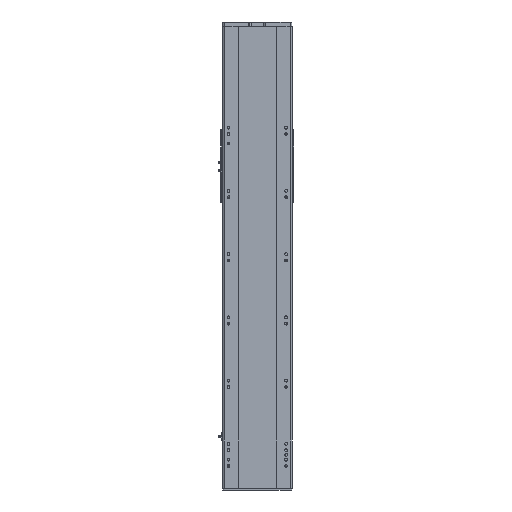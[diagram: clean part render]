
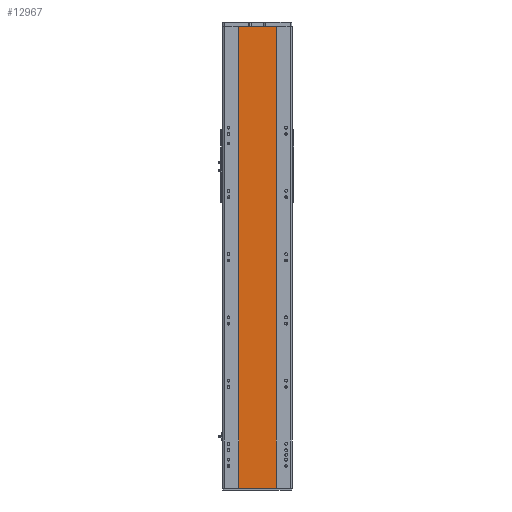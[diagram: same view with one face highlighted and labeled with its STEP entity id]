
A CAD part, front view. The second image highlights one B-rep face of the part: STEP entity #12967.
In plain terms, the highlighted planar face has unit normal (0, -1, 0).
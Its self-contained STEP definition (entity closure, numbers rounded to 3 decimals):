
#905 = VECTOR ( 'NONE', #15705, 1000. ) ;
#1436 = ORIENTED_EDGE ( 'NONE', *, *, #15707, .F. ) ;
#1807 = CARTESIAN_POINT ( 'NONE',  ( 59., 1., -730.5 ) ) ;
#1826 = CARTESIAN_POINT ( 'NONE',  ( -59., 1., 730.5 ) ) ;
#2507 = LINE ( 'NONE', #14375, #2958 ) ;
#2749 = PLANE ( 'NONE',  #26799 ) ;
#2958 = VECTOR ( 'NONE', #29137, 1000. ) ;
#3396 = VERTEX_POINT ( 'NONE', #35635 ) ;
#3615 = LINE ( 'NONE', #9654, #21268 ) ;
#4517 = VERTEX_POINT ( 'NONE', #30590 ) ;
#5737 = VERTEX_POINT ( 'NONE', #1826 ) ;
#8296 = EDGE_LOOP ( 'NONE', ( #11027, #1436, #26244, #19612 ) ) ;
#9499 = FACE_OUTER_BOUND ( 'NONE', #8296, .T. ) ;
#9654 = CARTESIAN_POINT ( 'NONE',  ( -59., 1., 730.5 ) ) ;
#10302 = EDGE_CURVE ( 'NONE', #4517, #24027, #11107, .T. ) ;
#11027 = ORIENTED_EDGE ( 'NONE', *, *, #10302, .T. ) ;
#11107 = LINE ( 'NONE', #37400, #38525 ) ;
#12662 = DIRECTION ( 'NONE',  ( 0., 0., -1. ) ) ;
#12967 = ADVANCED_FACE ( 'NONE', ( #9499 ), #2749, .F. ) ;
#14375 = CARTESIAN_POINT ( 'NONE',  ( 59., 1., 730.5 ) ) ;
#14446 = DIRECTION ( 'NONE',  ( 1., 0., 0. ) ) ;
#15570 = CARTESIAN_POINT ( 'NONE',  ( -59., 1., 730.5 ) ) ;
#15705 = DIRECTION ( 'NONE',  ( 1., 0., 0. ) ) ;
#15707 = EDGE_CURVE ( 'NONE', #3396, #24027, #2507, .T. ) ;
#17401 = DIRECTION ( 'NONE',  ( 0., 1., 0. ) ) ;
#17599 = LINE ( 'NONE', #15570, #905 ) ;
#19612 = ORIENTED_EDGE ( 'NONE', *, *, #35285, .T. ) ;
#21268 = VECTOR ( 'NONE', #12662, 1000. ) ;
#23162 = EDGE_CURVE ( 'NONE', #5737, #3396, #17599, .T. ) ;
#24027 = VERTEX_POINT ( 'NONE', #1807 ) ;
#26244 = ORIENTED_EDGE ( 'NONE', *, *, #23162, .F. ) ;
#26267 = CARTESIAN_POINT ( 'NONE',  ( -59., 1., 730.5 ) ) ;
#26799 = AXIS2_PLACEMENT_3D ( 'NONE', #26267, #17401, #38185 ) ;
#29137 = DIRECTION ( 'NONE',  ( 0., 0., -1. ) ) ;
#30590 = CARTESIAN_POINT ( 'NONE',  ( -59., 1., -730.5 ) ) ;
#35285 = EDGE_CURVE ( 'NONE', #5737, #4517, #3615, .T. ) ;
#35635 = CARTESIAN_POINT ( 'NONE',  ( 59., 1., 730.5 ) ) ;
#37400 = CARTESIAN_POINT ( 'NONE',  ( -59., 1., -730.5 ) ) ;
#38185 = DIRECTION ( 'NONE',  ( -1., 0., 0. ) ) ;
#38525 = VECTOR ( 'NONE', #14446, 1000. ) ;
